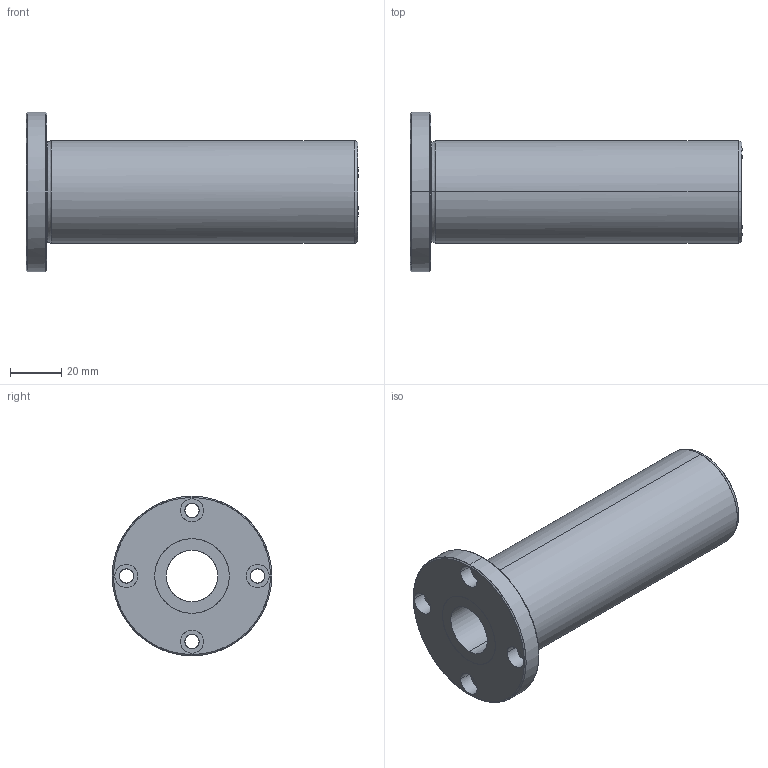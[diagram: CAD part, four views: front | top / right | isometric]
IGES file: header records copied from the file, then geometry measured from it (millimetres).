
Global section: file name: No Iges File Name specified; native system: AutoDesk Inventor R10; preprocessor: AutoDesk Inventor Iges Exporter R10; author: No Author specified; organization: No Organization specified; date: 20101216.172841; units: millimetre
Bounding box: 129 x 62 x 62 mm (x, y, z)
Surface area: 30759.2 mm2 (no closed solid volume)
Topology: 0 solids, 0 shells, 45 faces, 320 edges, 320 vertices
Faces by surface type: bspline 45
